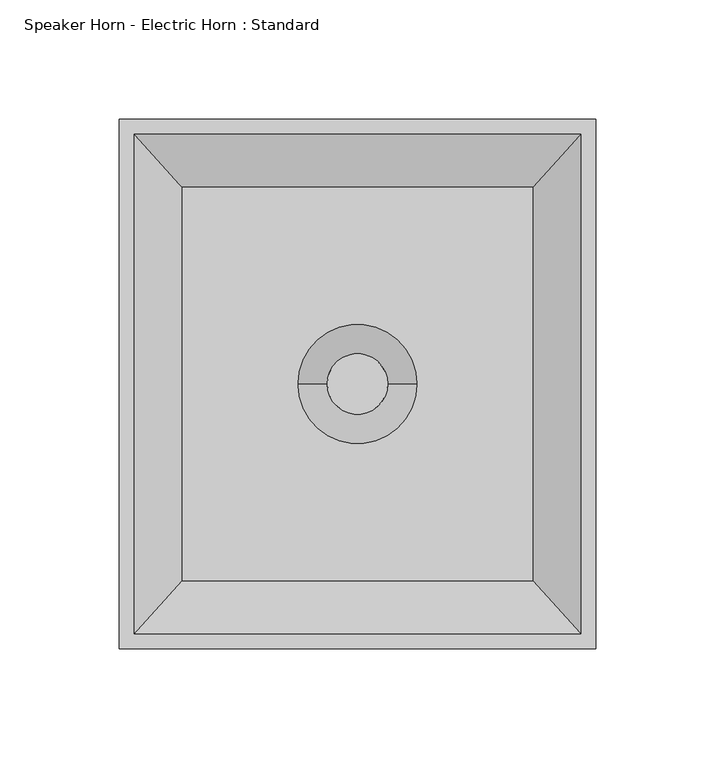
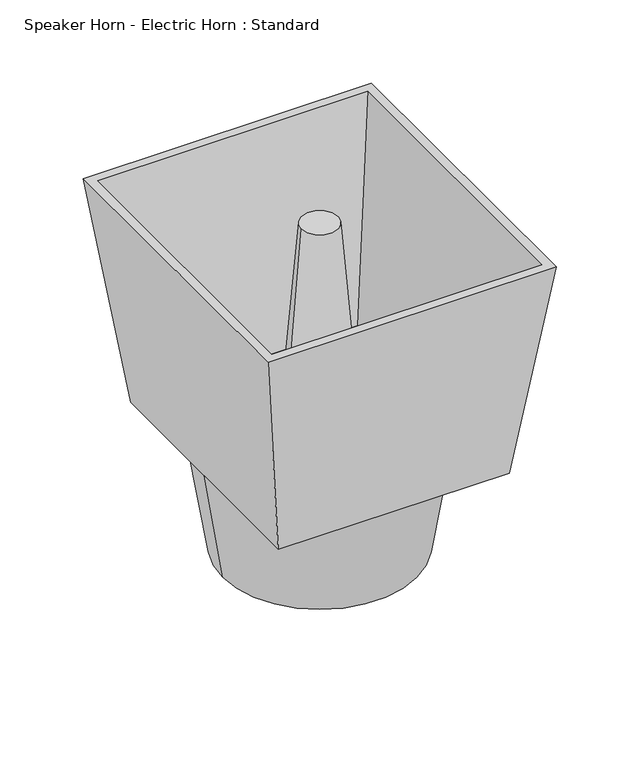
"""IFC4 building model written with IfcOpenShell, lengths in millimetres: proxy geometry, Speaker Horn - Electric Horn : Standard."""

from ifc_helpers import new_model, si_unit, frame, origin, place, context, project, spatial, polyline, circle_curve, faceted_brep, source, transform, mapped, element, save
from ifc_brep_helpers import plane_surface, revolved_surface, advanced_brep


def speaker_horn_electric_horn_standard_e2f3e5ad(model_context):
    return source(origin(), model_context, "Body", "SolidModel", [
        faceted_brep([(100.0125, 111.125, 236.5375), (-100.0125, 111.125, 236.5375), (-100.0125, -111.125, 236.5375), (100.0125, -111.125, 236.5375), (-93.6625, 104.775, 236.5375), (93.6625, 104.775, 236.5375), (93.6625, -104.775, 236.5375), (-93.6625, -104.775, 236.5375), (80.01, 88.9, 78.8458333), (80.01, -88.9, 78.8458333), (-80.01, -88.9, 78.8458333), (-80.01, 88.9, 78.8458333), (73.66, 82.55, 85.1958333), (-73.66, 82.55, 85.1958333), (-73.66, -82.55, 85.1958333), (73.66, -82.55, 85.1958333)], [[[0, 1, 2, 3], [4, 5, 6, 7]], [[8, 9, 10, 11]], [[1, 0, 8, 11]], [[2, 1, 11, 10]], [[3, 2, 10, 9]], [[0, 3, 9, 8]], [[12, 13, 14, 15]], [[13, 12, 5, 4]], [[14, 13, 4, 7]], [[15, 14, 7, 6]], [[12, 15, 6, 5]]]),
        advanced_brep(
        [(-12.7, 0.0, 236.5375), (12.7, 0.0, 236.5375), (-25.4, 0.0, 80.4333333), (25.4, 0.0, 80.4333333)],
        [
            (0, 1, circle_curve(frame((0.0, 0.0, 236.5375), z_axis=(0.0, 0.0, 1.0), x_axis=(-1.0, 0.0, 0.0)), 12.7)),
            (1, 0, circle_curve(frame((0.0, 0.0, 236.5375), z_axis=(0.0, 0.0, 1.0), x_axis=(1.0, 0.0, 0.0)), 12.7)),
            (2, 3, circle_curve(frame((0.0, 0.0, 80.4333333), z_axis=(0.0, 0.0, -1.0), x_axis=(1.0, 0.0, 0.0)), 25.4)),
            (3, 2, circle_curve(frame((0.0, 0.0, 80.4333333), z_axis=(0.0, 0.0, -1.0), x_axis=(-1.0, 0.0, 0.0)), 25.4)),
            (3, 1),
            (0, 2),
        ],
        [
            plane_surface(frame((0.0, 0.0, 236.5375), z_axis=(0.0, 0.0, 1.0), x_axis=(0.0, -1.0, 0.0))),
            plane_surface(frame((0.0, 0.0, 80.4333333), z_axis=(0.0, 0.0, -1.0), x_axis=(0.0, -1.0, 0.0))),
            revolved_surface(polyline([(-12.7, 0.0, 236.5375), (-25.4, 0.0, 80.43333330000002)]), (0.0, 0.0, 392.6416667), (0.0, 0.0, -1.0)),
            revolved_surface(polyline([(12.7, 0.0, 236.5375), (25.4, 0.0, 80.43333330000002)]), (0.0, 0.0, 392.6416667), (0.0, 0.0, -1.0)),
        ],
        [
            (0, [[1, 2]]),
            (1, [[3, 4]]),
            (2, [[-4, 5, -1, 6]]),
            (3, [[-3, -6, -2, -5]]),
        ],
    ),
        advanced_brep(
        [(-80.01, 0.0, 78.8458333), (80.01, 0.0, 78.8458333), (-67.31, 0.0, 0.0), (67.31, 0.0, 0.0)],
        [
            (0, 1, circle_curve(frame((0.0, 0.0, 78.8458333), z_axis=(0.0, 0.0, 1.0), x_axis=(-1.0, 0.0, 0.0)), 80.01)),
            (1, 0, circle_curve(frame((0.0, 0.0, 78.8458333), z_axis=(0.0, 0.0, 1.0), x_axis=(1.0, 0.0, 0.0)), 80.01)),
            (2, 3, circle_curve(frame((0.0, 0.0, 0.0), z_axis=(0.0, 0.0, -1.0), x_axis=(1.0, 0.0, 0.0)), 67.31)),
            (3, 2, circle_curve(frame((0.0, 0.0, 0.0), z_axis=(0.0, 0.0, -1.0), x_axis=(-1.0, 0.0, 0.0)), 67.31)),
            (3, 1),
            (0, 2),
        ],
        [
            plane_surface(frame((0.0, 0.0, 78.8458333), z_axis=(0.0, 0.0, 1.0), x_axis=(0.0, -1.0, 0.0))),
            plane_surface(frame((0.0, 0.0, 0.0), z_axis=(0.0, 0.0, -1.0), x_axis=(0.0, -1.0, 0.0))),
            revolved_surface(polyline([(67.31000000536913, 0.0, 0.0), (80.01, 0.0, 78.84583329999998)]), (0.0, 0.0, -417.8829167), (0.0, 0.0, 1.0)),
            revolved_surface(polyline([(-67.31000000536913, 0.0, 0.0), (-80.01, 0.0, 78.84583329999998)]), (0.0, 0.0, -417.8829167), (0.0, 0.0, 1.0)),
        ],
        [
            (0, [[1, 2]]),
            (1, [[3, 4]]),
            (2, [[-4, 5, -1, 6]]),
            (3, [[-3, -6, -2, -5]]),
        ],
    ),
    ])


if __name__ == "__main__":
    model = new_model("IFC4")
    model_context = context("Model", 3, world=origin())
    ifc_project = project(units=[si_unit("LENGTHUNIT", "METRE", prefix="MILLI")], contexts=[model_context])
    site = spatial("IfcSite", under=ifc_project)
    building = spatial("IfcBuilding", under=site)
    placement = place(None, origin())
    speaker_horn_electric_horn_standard_shape = speaker_horn_electric_horn_standard_e2f3e5ad(model_context)
    element("IfcBuildingElementProxy", 1, Name="Speaker Horn - Electric Horn : Standard", ObjectType="Speaker Horn - Electric Horn : Standard", at=placement, inside=building, context=model_context, shape_type="MappedRepresentation", body=[
        mapped(speaker_horn_electric_horn_standard_shape, transform((0.0, 0.0, 0.0), x_axis=(1.0, 0.0, 0.0), y_axis=(0.0, 1.0, 0.0), z_axis=(0.0, 0.0, 1.0))),
    ])
    save(model, "model.ifc")
